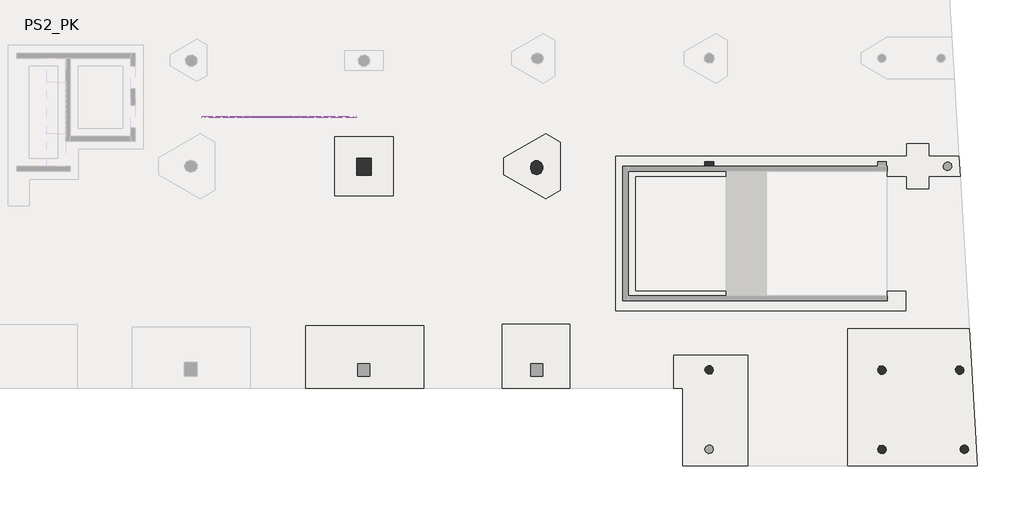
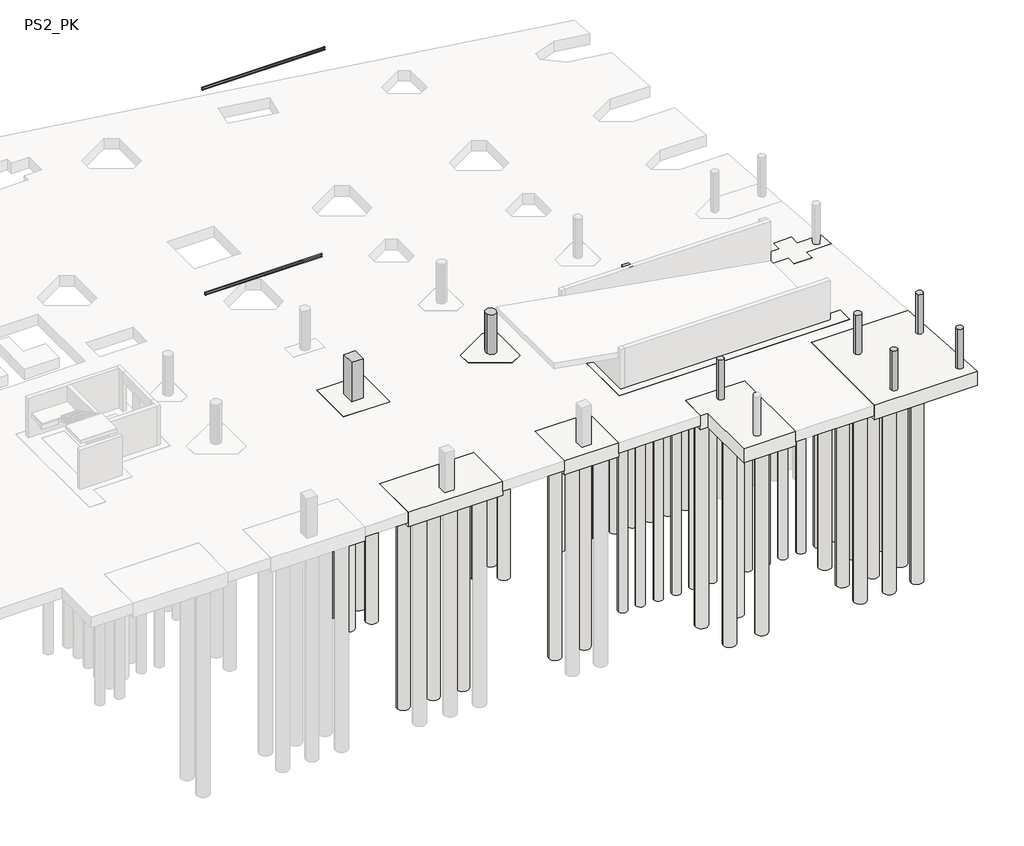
# One storey, part 4 of 10: 56 slabs, 8 columns, 2 beams.
"""IFC4 building model written with IfcOpenShell, lengths in millimetres."""

from ifc_helpers import new_model, si_unit, point, frame, frame_2d, origin, place, context, project, spatial, polyline, circle_curve, trimmed, segment, composite_curve, outline, extrude, faceted_brep, transform, mapped, element, save
from components import upn200x75_3e587e5f, upn200x75_de95b273, columna_seccomp_circ_columna_seccomp_circ_700x850_ca78fd77

model = new_model("IFC4")

# Units and contexts
model_context = context("Model", 3, world=origin())
ifc_project = project(units=[si_unit("LENGTHUNIT", "METRE", prefix="MILLI")], contexts=[model_context])

# Site, building, storey
site = spatial("IfcSite", under=ifc_project)
building = spatial("IfcBuilding", under=site)
storey = spatial("IfcBuildingStorey", under=building, Name="PS2_PK", Elevation=-1600.0)

# Beams
placement = place(None, origin())
upn200x75_shape = upn200x75_3e587e5f(model_context)
element("IfcBeam", 1, ObjectType="M_MC Shapes : UPN200x75", at=placement, inside=storey, context=model_context, shape_type="MappedRepresentation", body=[
    mapped(upn200x75_shape, transform((1566.4513115, -2010.7317513, 23660.0000368), x_axis=(0.9999999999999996, -3.175673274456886e-08, 0.0), y_axis=(3.175673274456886e-08, 0.9999999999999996, 0.0), z_axis=(0.0, 0.0, 1.0))),
])
upn200x75_2_shape = upn200x75_de95b273(model_context)
element("IfcBeam", 2, ObjectType="M_MC Shapes : UPN200x75", at=placement, inside=storey, context=model_context, shape_type="MappedRepresentation", body=[
    mapped(upn200x75_2_shape, transform((1566.4513123, -2010.7317513, 7760.0000231), x_axis=(0.9999999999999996, -3.175673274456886e-08, 0.0), y_axis=(3.175673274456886e-08, 0.9999999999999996, 0.0), z_axis=(0.0, 0.0, 1.0))),
])

# Columns
element("IfcColumn", 3, ObjectType="Hormigón-Redondo-Pilar : Pilo_Rodo-Formigo-500", at=placement, inside=storey, context=model_context, shape_type="SweptSolid", body=[
    extrude(outline(composite_curve([segment(trimmed(circle_curve(frame_2d((41261.1120515, -21285.1556839)), 250.0), [point((41055.2071105, -21426.9412801))], [point((41467.0169925, -21143.3700878))], False, "CARTESIAN"), True, "CONTINUOUS"), segment(trimmed(circle_curve(frame_2d((41261.1120515, -21285.1556839)), 250.0), [point((41467.0169925, -21143.3700878))], [point((41055.2071105, -21426.9412801))], False, "CARTESIAN"), True, "CONTINUOUS")], self_intersect=False)), frame((0.0, 0.0, -1600.0), z_axis=(0.0, 0.0, 1.0), x_axis=(1.0, 0.0, 0.0)), (0.0, 0.0, 1.0), 3050.0),
])
element("IfcColumn", 4, ObjectType="Hormigón-Redondo-Pilar : Pilo_Rodo-Formigo-500", at=placement, inside=storey, context=model_context, shape_type="SweptSolid", body=[
    extrude(outline(composite_curve([segment(trimmed(circle_curve(frame_2d((36484.7068935, -21285.1556118)), 250.0), [point((36278.8019525, -21426.9412079))], [point((36690.6118345, -21143.3700157))], False, "CARTESIAN"), True, "CONTINUOUS"), segment(trimmed(circle_curve(frame_2d((36484.7068935, -21285.1556118)), 250.0), [point((36690.6118345, -21143.3700157))], [point((36278.8019525, -21426.9412079))], False, "CARTESIAN"), True, "CONTINUOUS")], self_intersect=False)), frame((0.0, 0.0, -1600.0), z_axis=(0.0, 0.0, 1.0), x_axis=(1.0, 0.0, 0.0)), (0.0, 0.0, 1.0), 3050.0),
])
element("IfcColumn", 5, ObjectType="Hormigón-Redondo-Pilar : Pilo_Rodo-Formigo-500", at=placement, inside=storey, context=model_context, shape_type="SweptSolid", body=[
    extrude(outline(composite_curve([segment(trimmed(circle_curve(frame_2d((40986.7928926, -16685.0991437)), 250.0), [point((40780.8879516, -16826.8847398))], [point((41192.6978336, -16543.3135476))], False, "CARTESIAN"), True, "CONTINUOUS"), segment(trimmed(circle_curve(frame_2d((40986.7928926, -16685.0991437)), 250.0), [point((41192.6978336, -16543.3135476))], [point((40780.8879516, -16826.8847398))], False, "CARTESIAN"), True, "CONTINUOUS")], self_intersect=False)), frame((0.0, 0.0, -1600.0), z_axis=(0.0, 0.0, 1.0), x_axis=(1.0, 0.0, 0.0)), (0.0, 0.0, 1.0), 3050.0),
])
element("IfcColumn", 6, ObjectType="Hormigón-Redondo-Pilar : Pilo_Rodo-Formigo-500", at=placement, inside=storey, context=model_context, shape_type="SweptSolid", body=[
    extrude(outline(composite_curve([segment(trimmed(circle_curve(frame_2d((36484.7068935, -16685.0991433)), 250.0), [point((36278.8019525, -16826.8847394))], [point((36690.6118345, -16543.3135472))], False, "CARTESIAN"), True, "CONTINUOUS"), segment(trimmed(circle_curve(frame_2d((36484.7068935, -16685.0991433)), 250.0), [point((36690.6118345, -16543.3135472))], [point((36278.8019525, -16826.8847394))], False, "CARTESIAN"), True, "CONTINUOUS")], self_intersect=False)), frame((0.0, 0.0, -1600.0), z_axis=(0.0, 0.0, 1.0), x_axis=(1.0, 0.0, 0.0)), (0.0, 0.0, 1.0), 3050.0),
])
element("IfcColumn", 7, ObjectType="Hormigón-Redondo-Pilar : Pilo_Rodo-Formigo-500", at=placement, inside=storey, context=model_context, shape_type="SweptSolid", body=[
    extrude(outline(composite_curve([segment(trimmed(circle_curve(frame_2d((26484.7068935, -16685.0991435)), 250.0), [point((26278.8019525, -16826.8847396))], [point((26690.6118345, -16543.3135474))], False, "CARTESIAN"), True, "CONTINUOUS"), segment(trimmed(circle_curve(frame_2d((26484.7068935, -16685.0991435)), 250.0), [point((26690.6118345, -16543.3135474))], [point((26278.8019525, -16826.8847396))], False, "CARTESIAN"), True, "CONTINUOUS")], self_intersect=False)), frame((0.0, 0.0, -1600.0), z_axis=(0.0, 0.0, 1.0), x_axis=(1.0, 0.0, 0.0)), (0.0, 0.0, 1.0), 3050.0),
])
columna_seccomp_circ_columna_seccomp_circ_700x850_shape = columna_seccomp_circ_columna_seccomp_circ_700x850_ca78fd77(model_context)
element("IfcColumn", 8, ObjectType="Columna_SecComp_Circ : Columna_SecComp_Circ_700x850", at=placement, inside=storey, context=model_context, shape_type="MappedRepresentation", body=[
    mapped(columna_seccomp_circ_columna_seccomp_circ_700x850_shape, transform((16484.6814574, -4960.1423001, 0.0), x_axis=(0.0, 1.0, 0.0), y_axis=(-1.0, 0.0, 0.0), z_axis=(0.0, 0.0, 1.0))),
])
element("IfcColumn", 9, ObjectType="Concrete-Rectangular-Column : Pilar_Rectangular-Formigo-500x500", at=placement, inside=storey, context=model_context, shape_type="SweptSolid", body=[
    extrude(outline(polyline([(26734.7069054, -4635.0991439), (26734.7068816, -5135.0991439), (26234.7068816, -5135.0991202), (26234.7069054, -4635.0991202), (26734.7069054, -4635.0991439)])), frame((0.0, 0.0, -1600.0), z_axis=(0.0, 0.0, 1.0), x_axis=(1.0, 0.0, 0.0)), (0.0, 0.0, 1.0), 3050.0),
])
element("IfcColumn", 10, ObjectType="Concrete-Rectangular-Column : Pilar_Rectangular-Formigo-850x1000", at=placement, inside=storey, context=model_context, shape_type="SweptSolid", body=[
    extrude(outline(polyline([(6909.7080363, -4410.131442), (6909.7067713, -5410.131442), (6059.7067713, -5410.1303668), (6059.7080363, -4410.1303668), (6909.7080363, -4410.131442)])), frame((0.0, 0.0, -1600.0), z_axis=(0.0, 0.0, 1.0), x_axis=(1.0, 0.0, 0.0)), (0.0, 0.0, 1.0), 3050.0),
])

# Slabs
element("IfcSlab", 11, ObjectType="FunCap_Concreto_1100", at=placement, inside=storey, context=model_context, shape_type="Brep", body=[
    faceted_brep([(8184.676208, -6585.1328202, -2700.0), (4784.6762081, -6585.1285205, -2700.0), (4784.6805083, -3185.1285202, -2700.0), (8184.6805086, -3185.1328213, -2700.0), (8184.676208, -6585.1328202, -1600.0), (8184.6805086, -3185.1328213, -1600.0), (4784.6805083, -3185.1285202, -1600.0), (4784.6762081, -6585.1285205, -1600.0), (8184.676208, -6585.1328202, -2400.0), (4784.6762081, -6585.1285205, -2400.0), (4784.6805083, -3185.1285202, -2400.0), (8184.6805086, -3185.1328213, -2400.0)], [[[0, 1, 2, 3]], [[4, 5, 6, 7]], [[1, 0, 8, 4, 7, 9]], [[2, 1, 9, 7, 6, 10]], [[3, 2, 10, 6, 5, 11]], [[0, 3, 11, 5, 4, 8]]]),
])
element("IfcSlab", 12, ObjectType="FunCap_Concreto_1100", at=placement, inside=storey, context=model_context, shape_type="Brep", body=[
    faceted_brep([(14586.6387319, -5372.6384181, -2700.0), (14586.6399646, -4397.6384189, -2700.0), (17011.5128659, -2997.6414858, -2700.0), (17855.8870193, -3485.1425542, -2700.0), (17855.8834767, -6285.1425544, -2700.0), (17011.5080914, -6772.6414857, -2700.0), (14586.6387319, -5372.6384181, -1600.0), (17011.5080914, -6772.6414857, -1600.0), (17855.8834767, -6285.1425544, -1600.0), (17855.8870193, -3485.1425542, -1600.0), (17011.5128659, -2997.6414858, -1600.0), (14586.6399646, -4397.6384189, -1600.0), (14586.6387319, -5372.6384181, -2400.0), (14586.6399646, -4397.6384189, -2400.0), (17011.5128659, -2997.6414858, -2400.0), (17855.8870193, -3485.1425542, -2400.0), (17855.8834767, -6285.1425544, -2400.0), (17011.5080914, -6772.6414857, -2400.0)], [[[0, 1, 2, 3, 4, 5]], [[6, 7, 8, 9, 10, 11]], [[1, 0, 12, 6, 11, 13]], [[2, 1, 13, 11, 10, 14]], [[3, 2, 14, 10, 9, 15]], [[4, 3, 15, 9, 8, 16]], [[5, 4, 16, 8, 7, 17]], [[0, 5, 17, 7, 6, 12]]]),
])
element("IfcSlab", 13, ObjectType="FunCap_Concreto_1100", at=placement, inside=storey, context=model_context, shape_type="Brep", body=[
    faceted_brep([(39234.6775992, -5485.1695962, -2700.0), (39234.6766775, -6213.1460017, -2700.0), (37884.6766788, -6213.1442933, -2700.0), (37884.6775991, -5485.1678883, -2700.0), (22234.6776006, -5485.1480926, -2700.0), (22234.6692516, -12085.1480932, -2700.0), (37884.669251, -12085.1678888, -2700.0), (37884.6677328, -13285.1678881, -2700.0), (21034.6677332, -13285.1465747, -2700.0), (21034.6791178, -4285.1465742, -2700.0), (37884.6791174, -4285.1678881, -2700.0), (37884.6800304, -3563.1442939, -2700.0), (39234.6800305, -3563.1460018, -2700.0), (39234.6791175, -4285.1695956, -2700.0), (40949.1868096, -4285.1717655, -2700.0), (41020.7474881, -5485.1718545, -2700.0), (39234.6775992, -5485.1695962, -1600.0), (41020.7474881, -5485.1718545, -1600.0), (40949.1868096, -4285.1717655, -1600.0), (39234.6791175, -4285.1695956, -1600.0), (39234.6800305, -3563.1460018, -1600.0), (37884.6800304, -3563.1442939, -1600.0), (37884.6791174, -4285.1678881, -1600.0), (21034.6791178, -4285.1465742, -1600.0), (21034.6677332, -13285.1465747, -1600.0), (37884.6677328, -13285.1678881, -1600.0), (37884.669251, -12085.1678888, -1600.0), (36784.7068971, -12085.1664975, -1600.0), (34431.6189422, -12085.1635211, -1600.0), (22234.6692516, -12085.1480932, -1600.0), (22234.6776006, -5485.1480926, -1600.0), (34431.6189422, -5485.1635205, -1600.0), (36784.7068971, -5485.1664969, -1600.0), (37884.6775991, -5485.1678883, -1600.0), (37884.6766788, -6213.1442933, -1600.0), (39234.6766775, -6213.1460017, -1600.0), (39234.6775992, -5485.1695962, -2400.0), (39234.6766775, -6213.1460017, -2400.0), (37884.6766788, -6213.1442933, -2400.0), (37884.6775991, -5485.1678883, -2400.0), (22234.6776006, -5485.1480926, -2400.0), (22234.6692516, -12085.1480932, -2400.0), (37884.669251, -12085.1678888, -2400.0), (37884.6677328, -13285.1678881, -2400.0), (21034.6677332, -13285.1465747, -2400.0), (21034.6791178, -4285.1465742, -2400.0), (37884.6791174, -4285.1678881, -2400.0), (37884.6800304, -3563.1442939, -2400.0), (39234.6800305, -3563.1460018, -2400.0), (39234.6791175, -4285.1695956, -2400.0)], [[[0, 1, 2, 3, 4, 5, 6, 7, 8, 9, 10, 11, 12, 13, 14, 15]], [[16, 17, 18, 19, 20, 21, 22, 23, 24, 25, 26, 27, 28, 29, 30, 31, 32, 33, 34, 35]], [[1, 0, 36, 16, 35, 37]], [[2, 1, 37, 35, 34, 38]], [[3, 2, 38, 34, 33, 39]], [[4, 3, 39, 33, 32, 31, 30, 40]], [[5, 4, 40, 30, 29, 41]], [[6, 5, 41, 29, 28, 27, 26, 42]], [[7, 6, 42, 26, 25, 43]], [[8, 7, 43, 25, 24, 44]], [[9, 8, 44, 24, 23, 45]], [[10, 9, 45, 23, 22, 46]], [[11, 10, 46, 22, 21, 47]], [[12, 11, 47, 21, 20, 48]], [[13, 12, 48, 20, 19, 49]], [[14, 13, 49, 19, 18]], [[15, 14, 18, 17]], [[0, 15, 17, 16, 36]]]),
])
element("IfcSlab", 14, ObjectType="FunCap_Concreto_1100", at=placement, inside=storey, context=model_context, shape_type="Brep", body=[
    faceted_brep([(34485.7399193, -14256.7420885, -2700.0), (41543.8309131, -14256.7510167, -2700.0), (42020.1552762, -22244.2280778, -2700.0), (34485.729816, -22244.2280778, -2700.0), (34485.7399193, -14256.7420885, -1600.0), (34485.729816, -22244.2280778, -1600.0), (42020.1552762, -22244.2280778, -1600.0), (41543.8309131, -14256.7510167, -1600.0), (34485.7399193, -14256.7420885, -2400.0)], [[[0, 1, 2, 3]], [[4, 5, 6, 7]], [[1, 0, 8, 4, 7]], [[2, 1, 7, 6]], [[3, 2, 6, 5]], [[0, 3, 5, 4, 8]]]),
])
element("IfcSlab", 15, ObjectType="FunCap_Concreto_1100", at=placement, inside=storey, context=model_context, shape_type="Brep", body=[
    faceted_brep([(24944.3856893, -17733.5735079, -2700.0), (24409.6620966, -17733.5728017, -2700.0), (24409.6645394, -15810.1562743, -2700.0), (28744.3881261, -15810.1618334, -2700.0), (28744.3798642, -22244.2280778, -2700.0), (24944.3797383, -22244.2280778, -2700.0), (24944.3856893, -17733.5735079, -1600.0), (24944.3797383, -22244.2280778, -1600.0), (28744.3798642, -22244.2280778, -1600.0), (28744.3881261, -15810.1618334, -1600.0), (24409.6645394, -15810.1562743, -1600.0), (24409.6620966, -17733.5728017, -1600.0), (24409.6645394, -15810.1562743, -2400.0), (28744.3881261, -15810.1618334, -2400.0)], [[[0, 1, 2, 3, 4, 5]], [[6, 7, 8, 9, 10, 11]], [[1, 0, 6, 11]], [[2, 1, 11, 10, 12]], [[3, 2, 12, 10, 9, 13]], [[4, 3, 13, 9, 8]], [[5, 4, 8, 7]], [[0, 5, 7, 6]]]),
])
element("IfcSlab", 16, ObjectType="FunCap_Concreto_1100", at=placement, inside=storey, context=model_context, shape_type="Brep", body=[
    faceted_brep([(18431.1823523, -14006.1082963, -2700.0), (18431.1823523, -17733.5286548, -2700.0), (14475.6888375, -17733.5286548, -2700.0), (14475.6888375, -14006.1082963, -2700.0), (18431.1823523, -14006.1082963, -1600.0), (14475.6888375, -14006.1082963, -1600.0), (14475.6888375, -17733.2608686, -1600.0), (14475.6888375, -17733.5286548, -1600.0), (18431.1823523, -17733.5286548, -1600.0), (18431.1823523, -17733.3579028, -1600.0), (18431.1823523, -14006.1082963, -2400.0), (14475.6888375, -14006.1082963, -2400.0)], [[[0, 1, 2, 3]], [[4, 5, 6, 7, 8, 9]], [[1, 0, 10, 4, 9, 8]], [[2, 1, 8, 7]], [[3, 2, 7, 6, 5, 11]], [[0, 3, 11, 5, 4, 10]]]),
])
element("IfcSlab", 17, ObjectType="FunCap_Concreto_1100", at=placement, inside=storey, context=model_context, shape_type="Brep", body=[
    faceted_brep([(9972.6673336, -14101.0842931, -2700.0), (9972.6673336, -17733.5286548, -2700.0), (3072.6719289, -17733.5286548, -2700.0), (3072.6719289, -14101.0842931, -2700.0), (9972.6673336, -14101.0842931, -1600.0), (3072.6719289, -14101.0842931, -1600.0), (3072.6719289, -17732.9811353, -1600.0), (3072.6719289, -17733.5286548, -1600.0), (9972.6673336, -17733.5286548, -1600.0), (9972.6673336, -17733.1504027, -1600.0), (9972.6673336, -14101.0842931, -2400.0), (3072.6719289, -14101.0842931, -2400.0)], [[[0, 1, 2, 3]], [[4, 5, 6, 7, 8, 9]], [[1, 0, 10, 4, 9, 8]], [[2, 1, 8, 7]], [[3, 2, 7, 6, 5, 11]], [[0, 3, 11, 5, 4, 10]]]),
])
element("IfcSlab", 18, ObjectType="Fun_Pilote_Redondo : Fun_Pilote_Redondo_Conc_650x16000", at=placement, inside=storey, context=model_context, shape_type="SweptSolid", body=[
    extrude(outline(composite_curve([segment(trimmed(circle_curve(frame_2d((37234.6684909, -12685.1670739)), 325.0), [point((36909.6684909, -12685.1670739))], [point((37559.6684909, -12685.1670739))], False, "CARTESIAN"), True, "CONTINUOUS"), segment(trimmed(circle_curve(frame_2d((37234.6684909, -12685.1670739)), 325.0), [point((37559.6684909, -12685.1670739))], [point((36909.6684909, -12685.1670739))], False, "CARTESIAN"), True, "CONTINUOUS")], self_intersect=False)), frame((0.0, 0.0, -18700.0), z_axis=(0.0, 0.0, 1.0), x_axis=(1.0, 0.0, 0.0)), (0.0, 0.0, 1.0), 16000.0),
])
element("IfcSlab", 19, ObjectType="Fun_Pilote_Redondo : Fun_Pilote_Redondo_Conc_650x16000", at=placement, inside=storey, context=model_context, shape_type="SweptSolid", body=[
    extrude(outline(composite_curve([segment(trimmed(circle_curve(frame_2d((35934.6684916, -12685.1654294)), 325.0), [point((35609.6684916, -12685.1654294))], [point((36259.6684916, -12685.1654294))], False, "CARTESIAN"), True, "CONTINUOUS"), segment(trimmed(circle_curve(frame_2d((35934.6684916, -12685.1654294)), 325.0), [point((36259.6684916, -12685.1654294))], [point((35609.6684916, -12685.1654294))], False, "CARTESIAN"), True, "CONTINUOUS")], self_intersect=False)), frame((0.0, 0.0, -18700.0), z_axis=(0.0, 0.0, 1.0), x_axis=(1.0, 0.0, 0.0)), (0.0, 0.0, 1.0), 16000.0),
])
element("IfcSlab", 20, ObjectType="Fun_Pilote_Redondo : Fun_Pilote_Redondo_Conc_650x16000", at=placement, inside=storey, context=model_context, shape_type="SweptSolid", body=[
    extrude(outline(composite_curve([segment(trimmed(circle_curve(frame_2d((34634.6684913, -12685.1637849)), 325.0), [point((34309.6684913, -12685.1637849))], [point((34959.6684913, -12685.1637849))], False, "CARTESIAN"), True, "CONTINUOUS"), segment(trimmed(circle_curve(frame_2d((34634.6684913, -12685.1637849)), 325.0), [point((34959.6684913, -12685.1637849))], [point((34309.6684913, -12685.1637849))], False, "CARTESIAN"), True, "CONTINUOUS")], self_intersect=False)), frame((0.0, 0.0, -18700.0), z_axis=(0.0, 0.0, 1.0), x_axis=(1.0, 0.0, 0.0)), (0.0, 0.0, 1.0), 16000.0),
])
element("IfcSlab", 21, ObjectType="Fun_Pilote_Redondo : Fun_Pilote_Redondo_Conc_650x16000", at=placement, inside=storey, context=model_context, shape_type="SweptSolid", body=[
    extrude(outline(composite_curve([segment(trimmed(circle_curve(frame_2d((33334.6684915, -12685.1621404)), 325.0), [point((33009.6684915, -12685.1621404))], [point((33659.6684915, -12685.1621404))], False, "CARTESIAN"), True, "CONTINUOUS"), segment(trimmed(circle_curve(frame_2d((33334.6684915, -12685.1621404)), 325.0), [point((33659.6684915, -12685.1621404))], [point((33009.6684915, -12685.1621404))], False, "CARTESIAN"), True, "CONTINUOUS")], self_intersect=False)), frame((0.0, 0.0, -18700.0), z_axis=(0.0, 0.0, 1.0), x_axis=(1.0, 0.0, 0.0)), (0.0, 0.0, 1.0), 16000.0),
])
element("IfcSlab", 22, ObjectType="Fun_Pilote_Redondo : Fun_Pilote_Redondo_Conc_650x16000", at=placement, inside=storey, context=model_context, shape_type="SweptSolid", body=[
    extrude(outline(composite_curve([segment(trimmed(circle_curve(frame_2d((32034.6684917, -12685.1604959)), 325.0), [point((31709.6684917, -12685.1604959))], [point((32359.6684917, -12685.1604959))], False, "CARTESIAN"), True, "CONTINUOUS"), segment(trimmed(circle_curve(frame_2d((32034.6684917, -12685.1604959)), 325.0), [point((32359.6684917, -12685.1604959))], [point((31709.6684917, -12685.1604959))], False, "CARTESIAN"), True, "CONTINUOUS")], self_intersect=False)), frame((0.0, 0.0, -18700.0), z_axis=(0.0, 0.0, 1.0), x_axis=(1.0, 0.0, 0.0)), (0.0, 0.0, 1.0), 16000.0),
])
element("IfcSlab", 23, ObjectType="Fun_Pilote_Redondo : Fun_Pilote_Redondo_Conc_650x16000", at=placement, inside=storey, context=model_context, shape_type="SweptSolid", body=[
    extrude(outline(composite_curve([segment(trimmed(circle_curve(frame_2d((30734.6684909, -12685.1588505)), 325.0), [point((30409.6684909, -12685.1588505))], [point((31059.6684909, -12685.1588505))], False, "CARTESIAN"), True, "CONTINUOUS"), segment(trimmed(circle_curve(frame_2d((30734.6684909, -12685.1588505)), 325.0), [point((31059.6684909, -12685.1588505))], [point((30409.6684909, -12685.1588505))], False, "CARTESIAN"), True, "CONTINUOUS")], self_intersect=False)), frame((0.0, 0.0, -18700.0), z_axis=(0.0, 0.0, 1.0), x_axis=(1.0, 0.0, 0.0)), (0.0, 0.0, 1.0), 16000.0),
])
element("IfcSlab", 24, ObjectType="Fun_Pilote_Redondo : Fun_Pilote_Redondo_Conc_650x16000", at=placement, inside=storey, context=model_context, shape_type="SweptSolid", body=[
    extrude(outline(composite_curve([segment(trimmed(circle_curve(frame_2d((29434.6684911, -12685.1572065)), 325.0), [point((29109.6684911, -12685.1572065))], [point((29759.6684911, -12685.1572065))], False, "CARTESIAN"), True, "CONTINUOUS"), segment(trimmed(circle_curve(frame_2d((29434.6684911, -12685.1572065)), 325.0), [point((29759.6684911, -12685.1572065))], [point((29109.6684911, -12685.1572065))], False, "CARTESIAN"), True, "CONTINUOUS")], self_intersect=False)), frame((0.0, 0.0, -18700.0), z_axis=(0.0, 0.0, 1.0), x_axis=(1.0, 0.0, 0.0)), (0.0, 0.0, 1.0), 16000.0),
])
element("IfcSlab", 25, ObjectType="Fun_Pilote_Redondo : Fun_Pilote_Redondo_Conc_650x16000", at=placement, inside=storey, context=model_context, shape_type="SweptSolid", body=[
    extrude(outline(composite_curve([segment(trimmed(circle_curve(frame_2d((28134.6684913, -12685.155562)), 325.0), [point((27809.6684913, -12685.155562))], [point((28459.6684913, -12685.155562))], False, "CARTESIAN"), True, "CONTINUOUS"), segment(trimmed(circle_curve(frame_2d((28134.6684913, -12685.155562)), 325.0), [point((28459.6684913, -12685.155562))], [point((27809.6684913, -12685.155562))], False, "CARTESIAN"), True, "CONTINUOUS")], self_intersect=False)), frame((0.0, 0.0, -18700.0), z_axis=(0.0, 0.0, 1.0), x_axis=(1.0, 0.0, 0.0)), (0.0, 0.0, 1.0), 16000.0),
])
element("IfcSlab", 26, ObjectType="Fun_Pilote_Redondo : Fun_Pilote_Redondo_Conc_650x16000", at=placement, inside=storey, context=model_context, shape_type="SweptSolid", body=[
    extrude(outline(composite_curve([segment(trimmed(circle_curve(frame_2d((26834.668491, -12685.1539175)), 325.0), [point((26509.668491, -12685.1539175))], [point((27159.668491, -12685.1539175))], False, "CARTESIAN"), True, "CONTINUOUS"), segment(trimmed(circle_curve(frame_2d((26834.668491, -12685.1539175)), 325.0), [point((27159.668491, -12685.1539175))], [point((26509.668491, -12685.1539175))], False, "CARTESIAN"), True, "CONTINUOUS")], self_intersect=False)), frame((0.0, 0.0, -18700.0), z_axis=(0.0, 0.0, 1.0), x_axis=(1.0, 0.0, 0.0)), (0.0, 0.0, 1.0), 16000.0),
])
element("IfcSlab", 27, ObjectType="Fun_Pilote_Redondo : Fun_Pilote_Redondo_Conc_650x16000", at=placement, inside=storey, context=model_context, shape_type="SweptSolid", body=[
    extrude(outline(composite_curve([segment(trimmed(circle_curve(frame_2d((25534.6684912, -12685.152273)), 325.0), [point((25209.6684912, -12685.152273))], [point((25859.6684912, -12685.152273))], False, "CARTESIAN"), True, "CONTINUOUS"), segment(trimmed(circle_curve(frame_2d((25534.6684912, -12685.152273)), 325.0), [point((25859.6684912, -12685.152273))], [point((25209.6684912, -12685.152273))], False, "CARTESIAN"), True, "CONTINUOUS")], self_intersect=False)), frame((0.0, 0.0, -18700.0), z_axis=(0.0, 0.0, 1.0), x_axis=(1.0, 0.0, 0.0)), (0.0, 0.0, 1.0), 16000.0),
])
element("IfcSlab", 28, ObjectType="Fun_Pilote_Redondo : Fun_Pilote_Redondo_Conc_650x16000", at=placement, inside=storey, context=model_context, shape_type="SweptSolid", body=[
    extrude(outline(composite_curve([segment(trimmed(circle_curve(frame_2d((24234.6684919, -12685.1506285)), 325.0), [point((23909.6684919, -12685.1506285))], [point((24559.6684919, -12685.1506285))], False, "CARTESIAN"), True, "CONTINUOUS"), segment(trimmed(circle_curve(frame_2d((24234.6684919, -12685.1506285)), 325.0), [point((24559.6684919, -12685.1506285))], [point((23909.6684919, -12685.1506285))], False, "CARTESIAN"), True, "CONTINUOUS")], self_intersect=False)), frame((0.0, 0.0, -18700.0), z_axis=(0.0, 0.0, 1.0), x_axis=(1.0, 0.0, 0.0)), (0.0, 0.0, 1.0), 16000.0),
])
element("IfcSlab", 29, ObjectType="Fun_Pilote_Redondo : Fun_Pilote_Redondo_Conc_650x16000", at=placement, inside=storey, context=model_context, shape_type="SweptSolid", body=[
    extrude(outline(composite_curve([segment(trimmed(circle_curve(frame_2d((22934.6684911, -12685.148983)), 325.0), [point((22609.6684911, -12685.148983))], [point((23259.6684911, -12685.148983))], False, "CARTESIAN"), True, "CONTINUOUS"), segment(trimmed(circle_curve(frame_2d((22934.6684911, -12685.148983)), 325.0), [point((23259.6684911, -12685.148983))], [point((22609.6684911, -12685.148983))], False, "CARTESIAN"), True, "CONTINUOUS")], self_intersect=False)), frame((0.0, 0.0, -18700.0), z_axis=(0.0, 0.0, 1.0), x_axis=(1.0, 0.0, 0.0)), (0.0, 0.0, 1.0), 16000.0),
])
element("IfcSlab", 30, ObjectType="Fun_Pilote_Redondo : Fun_Pilote_Redondo_Conc_650x16000", at=placement, inside=storey, context=model_context, shape_type="SweptSolid", body=[
    extrude(outline(composite_curve([segment(trimmed(circle_curve(frame_2d((21634.6684913, -12685.1473385)), 325.0), [point((21309.6684913, -12685.1473385))], [point((21959.6684913, -12685.1473385))], False, "CARTESIAN"), True, "CONTINUOUS"), segment(trimmed(circle_curve(frame_2d((21634.6684913, -12685.1473385)), 325.0), [point((21959.6684913, -12685.1473385))], [point((21309.6684913, -12685.1473385))], False, "CARTESIAN"), True, "CONTINUOUS")], self_intersect=False)), frame((0.0, 0.0, -18700.0), z_axis=(0.0, 0.0, 1.0), x_axis=(1.0, 0.0, 0.0)), (0.0, 0.0, 1.0), 16000.0),
])
element("IfcSlab", 31, ObjectType="Fun_Pilote_Redondo : Fun_Pilote_Redondo_Conc_650x16000", at=placement, inside=storey, context=model_context, shape_type="SweptSolid", body=[
    extrude(outline(composite_curve([segment(trimmed(circle_curve(frame_2d((21634.6717808, -10085.1473389)), 325.0), [point((21309.6717808, -10085.1473389))], [point((21959.6717808, -10085.1473389))], False, "CARTESIAN"), True, "CONTINUOUS"), segment(trimmed(circle_curve(frame_2d((21634.6717808, -10085.1473389)), 325.0), [point((21959.6717808, -10085.1473389))], [point((21309.6717808, -10085.1473389))], False, "CARTESIAN"), True, "CONTINUOUS")], self_intersect=False)), frame((0.0, 0.0, -18700.0), z_axis=(0.0, 0.0, 1.0), x_axis=(1.0, 0.0, 0.0)), (0.0, 0.0, 1.0), 16000.0),
])
element("IfcSlab", 32, ObjectType="Fun_Pilote_Redondo : Fun_Pilote_Redondo_Conc_650x16000", at=placement, inside=storey, context=model_context, shape_type="SweptSolid", body=[
    extrude(outline(composite_curve([segment(trimmed(circle_curve(frame_2d((21634.6750693, -7485.1473388)), 325.0), [point((21309.6750693, -7485.1473388))], [point((21959.6750693, -7485.1473388))], False, "CARTESIAN"), True, "CONTINUOUS"), segment(trimmed(circle_curve(frame_2d((21634.6750693, -7485.1473388)), 325.0), [point((21959.6750693, -7485.1473388))], [point((21309.6750693, -7485.1473388))], False, "CARTESIAN"), True, "CONTINUOUS")], self_intersect=False)), frame((0.0, 0.0, -18700.0), z_axis=(0.0, 0.0, 1.0), x_axis=(1.0, 0.0, 0.0)), (0.0, 0.0, 1.0), 16000.0),
])
element("IfcSlab", 33, ObjectType="Fun_Pilote_Redondo : Fun_Pilote_Redondo_Conc_650x16000", at=placement, inside=storey, context=model_context, shape_type="SweptSolid", body=[
    extrude(outline(composite_curve([segment(trimmed(circle_curve(frame_2d((21634.6783588, -4885.1473387)), 325.0), [point((21309.6783588, -4885.1473387))], [point((21959.6783588, -4885.1473387))], False, "CARTESIAN"), True, "CONTINUOUS"), segment(trimmed(circle_curve(frame_2d((21634.6783588, -4885.1473387)), 325.0), [point((21959.6783588, -4885.1473387))], [point((21309.6783588, -4885.1473387))], False, "CARTESIAN"), True, "CONTINUOUS")], self_intersect=False)), frame((0.0, 0.0, -18700.0), z_axis=(0.0, 0.0, 1.0), x_axis=(1.0, 0.0, 0.0)), (0.0, 0.0, 1.0), 16000.0),
])
element("IfcSlab", 34, ObjectType="Fun_Pilote_Redondo : Fun_Pilote_Redondo_Conc_650x16000", at=placement, inside=storey, context=model_context, shape_type="SweptSolid", body=[
    extrude(outline(composite_curve([segment(trimmed(circle_curve(frame_2d((22934.6783591, -4885.1489837)), 325.0), [point((22609.6783591, -4885.1489837))], [point((23259.6783591, -4885.1489837))], False, "CARTESIAN"), True, "CONTINUOUS"), segment(trimmed(circle_curve(frame_2d((22934.6783591, -4885.1489837)), 325.0), [point((23259.6783591, -4885.1489837))], [point((22609.6783591, -4885.1489837))], False, "CARTESIAN"), True, "CONTINUOUS")], self_intersect=False)), frame((0.0, 0.0, -18700.0), z_axis=(0.0, 0.0, 1.0), x_axis=(1.0, 0.0, 0.0)), (0.0, 0.0, 1.0), 16000.0),
])
element("IfcSlab", 35, ObjectType="Fun_Pilote_Redondo : Fun_Pilote_Redondo_Conc_650x16000", at=placement, inside=storey, context=model_context, shape_type="SweptSolid", body=[
    extrude(outline(composite_curve([segment(trimmed(circle_curve(frame_2d((24234.6783589, -4885.1506282)), 325.0), [point((23909.6783589, -4885.1506282))], [point((24559.6783589, -4885.1506282))], False, "CARTESIAN"), True, "CONTINUOUS"), segment(trimmed(circle_curve(frame_2d((24234.6783589, -4885.1506282)), 325.0), [point((24559.6783589, -4885.1506282))], [point((23909.6783589, -4885.1506282))], False, "CARTESIAN"), True, "CONTINUOUS")], self_intersect=False)), frame((0.0, 0.0, -18700.0), z_axis=(0.0, 0.0, 1.0), x_axis=(1.0, 0.0, 0.0)), (0.0, 0.0, 1.0), 16000.0),
])
element("IfcSlab", 36, ObjectType="Fun_Pilote_Redondo : Fun_Pilote_Redondo_Conc_650x16000", at=placement, inside=storey, context=model_context, shape_type="SweptSolid", body=[
    extrude(outline(composite_curve([segment(trimmed(circle_curve(frame_2d((25534.6783587, -4885.1522727)), 325.0), [point((25209.6783587, -4885.1522727))], [point((25859.6783587, -4885.1522727))], False, "CARTESIAN"), True, "CONTINUOUS"), segment(trimmed(circle_curve(frame_2d((25534.6783587, -4885.1522727)), 325.0), [point((25859.6783587, -4885.1522727))], [point((25209.6783587, -4885.1522727))], False, "CARTESIAN"), True, "CONTINUOUS")], self_intersect=False)), frame((0.0, 0.0, -18700.0), z_axis=(0.0, 0.0, 1.0), x_axis=(1.0, 0.0, 0.0)), (0.0, 0.0, 1.0), 16000.0),
])
element("IfcSlab", 37, ObjectType="Fun_Pilote_Redondo : Fun_Pilote_Redondo_Conc_650x16000", at=placement, inside=storey, context=model_context, shape_type="SweptSolid", body=[
    extrude(outline(composite_curve([segment(trimmed(circle_curve(frame_2d((26834.6783585, -4885.1539167)), 325.0), [point((26509.6783585, -4885.1539167))], [point((27159.6783585, -4885.1539167))], False, "CARTESIAN"), True, "CONTINUOUS"), segment(trimmed(circle_curve(frame_2d((26834.6783585, -4885.1539167)), 325.0), [point((27159.6783585, -4885.1539167))], [point((26509.6783585, -4885.1539167))], False, "CARTESIAN"), True, "CONTINUOUS")], self_intersect=False)), frame((0.0, 0.0, -18700.0), z_axis=(0.0, 0.0, 1.0), x_axis=(1.0, 0.0, 0.0)), (0.0, 0.0, 1.0), 16000.0),
])
element("IfcSlab", 38, ObjectType="Fun_Pilote_Redondo : Fun_Pilote_Redondo_Conc_650x16000", at=placement, inside=storey, context=model_context, shape_type="SweptSolid", body=[
    extrude(outline(composite_curve([segment(trimmed(circle_curve(frame_2d((28134.6783588, -4885.1555612)), 325.0), [point((27809.6783588, -4885.1555612))], [point((28459.6783588, -4885.1555612))], False, "CARTESIAN"), True, "CONTINUOUS"), segment(trimmed(circle_curve(frame_2d((28134.6783588, -4885.1555612)), 325.0), [point((28459.6783588, -4885.1555612))], [point((27809.6783588, -4885.1555612))], False, "CARTESIAN"), True, "CONTINUOUS")], self_intersect=False)), frame((0.0, 0.0, -18700.0), z_axis=(0.0, 0.0, 1.0), x_axis=(1.0, 0.0, 0.0)), (0.0, 0.0, 1.0), 16000.0),
])
element("IfcSlab", 39, ObjectType="Fun_Pilote_Redondo : Fun_Pilote_Redondo_Conc_650x16000", at=placement, inside=storey, context=model_context, shape_type="SweptSolid", body=[
    extrude(outline(composite_curve([segment(trimmed(circle_curve(frame_2d((29434.6783586, -4885.1572057)), 325.0), [point((29109.6783586, -4885.1572057))], [point((29759.6783586, -4885.1572057))], False, "CARTESIAN"), True, "CONTINUOUS"), segment(trimmed(circle_curve(frame_2d((29434.6783586, -4885.1572057)), 325.0), [point((29759.6783586, -4885.1572057))], [point((29109.6783586, -4885.1572057))], False, "CARTESIAN"), True, "CONTINUOUS")], self_intersect=False)), frame((0.0, 0.0, -18700.0), z_axis=(0.0, 0.0, 1.0), x_axis=(1.0, 0.0, 0.0)), (0.0, 0.0, 1.0), 16000.0),
])
element("IfcSlab", 40, ObjectType="Fun_Pilote_Redondo : Fun_Pilote_Redondo_Conc_650x16000", at=placement, inside=storey, context=model_context, shape_type="SweptSolid", body=[
    extrude(outline(composite_curve([segment(trimmed(circle_curve(frame_2d((30734.6783589, -4885.1588512)), 325.0), [point((30409.6783589, -4885.1588512))], [point((31059.6783589, -4885.1588512))], False, "CARTESIAN"), True, "CONTINUOUS"), segment(trimmed(circle_curve(frame_2d((30734.6783589, -4885.1588512)), 325.0), [point((31059.6783589, -4885.1588512))], [point((30409.6783589, -4885.1588512))], False, "CARTESIAN"), True, "CONTINUOUS")], self_intersect=False)), frame((0.0, 0.0, -18700.0), z_axis=(0.0, 0.0, 1.0), x_axis=(1.0, 0.0, 0.0)), (0.0, 0.0, 1.0), 16000.0),
])
element("IfcSlab", 41, ObjectType="Fun_Pilote_Redondo : Fun_Pilote_Redondo_Conc_650x16000", at=placement, inside=storey, context=model_context, shape_type="SweptSolid", body=[
    extrude(outline(composite_curve([segment(trimmed(circle_curve(frame_2d((32034.6783592, -4885.1604957)), 325.0), [point((31709.6783592, -4885.1604957))], [point((32359.6783592, -4885.1604957))], False, "CARTESIAN"), True, "CONTINUOUS"), segment(trimmed(circle_curve(frame_2d((32034.6783592, -4885.1604957)), 325.0), [point((32359.6783592, -4885.1604957))], [point((31709.6783592, -4885.1604957))], False, "CARTESIAN"), True, "CONTINUOUS")], self_intersect=False)), frame((0.0, 0.0, -18700.0), z_axis=(0.0, 0.0, 1.0), x_axis=(1.0, 0.0, 0.0)), (0.0, 0.0, 1.0), 16000.0),
])
element("IfcSlab", 42, ObjectType="Fun_Pilote_Redondo : Fun_Pilote_Redondo_Conc_850x16000", at=placement, inside=storey, context=model_context, shape_type="SweptSolid", body=[
    extrude(outline(composite_curve([segment(trimmed(circle_curve(frame_2d((5634.6794334, -4035.1295975)), 425.0), [point((5209.6794334, -4035.1295975))], [point((6059.6794334, -4035.1295975))], False, "CARTESIAN"), True, "CONTINUOUS"), segment(trimmed(circle_curve(frame_2d((5634.6794334, -4035.1295975)), 425.0), [point((6059.6794334, -4035.1295975))], [point((5209.6794334, -4035.1295975))], False, "CARTESIAN"), True, "CONTINUOUS")], self_intersect=False)), frame((0.0, 0.0, -18700.0), z_axis=(0.0, 0.0, 1.0), x_axis=(1.0, 0.0, 0.0)), (0.0, 0.0, 1.0), 16000.0),
])
element("IfcSlab", 43, ObjectType="Fun_Pilote_Redondo : Fun_Pilote_Redondo_Conc_850x16000", at=placement, inside=storey, context=model_context, shape_type="SweptSolid", body=[
    extrude(outline(composite_curve([segment(trimmed(circle_curve(frame_2d((5634.6772835, -5735.1295977)), 425.0), [point((5209.6772835, -5735.1295977))], [point((6059.6772835, -5735.1295977))], False, "CARTESIAN"), True, "CONTINUOUS"), segment(trimmed(circle_curve(frame_2d((5634.6772835, -5735.1295977)), 425.0), [point((6059.6772835, -5735.1295977))], [point((5209.6772835, -5735.1295977))], False, "CARTESIAN"), True, "CONTINUOUS")], self_intersect=False)), frame((0.0, 0.0, -18700.0), z_axis=(0.0, 0.0, 1.0), x_axis=(1.0, 0.0, 0.0)), (0.0, 0.0, 1.0), 16000.0),
])
element("IfcSlab", 44, ObjectType="Fun_Pilote_Redondo : Fun_Pilote_Redondo_Conc_850x16000", at=placement, inside=storey, context=model_context, shape_type="SweptSolid", body=[
    extrude(outline(composite_curve([segment(trimmed(circle_curve(frame_2d((7334.677283, -5735.131748)), 425.0), [point((6909.677283, -5735.131748))], [point((7759.677283, -5735.131748))], False, "CARTESIAN"), True, "CONTINUOUS"), segment(trimmed(circle_curve(frame_2d((7334.677283, -5735.131748)), 425.0), [point((7759.677283, -5735.131748))], [point((6909.677283, -5735.131748))], False, "CARTESIAN"), True, "CONTINUOUS")], self_intersect=False)), frame((0.0, 0.0, -18700.0), z_axis=(0.0, 0.0, 1.0), x_axis=(1.0, 0.0, 0.0)), (0.0, 0.0, 1.0), 16000.0),
])
element("IfcSlab", 45, ObjectType="Fun_Pilote_Redondo : Fun_Pilote_Redondo_Conc_850x16000", at=placement, inside=storey, context=model_context, shape_type="SweptSolid", body=[
    extrude(outline(composite_curve([segment(trimmed(circle_curve(frame_2d((7334.6794341, -4035.1317483)), 425.0), [point((6909.6794341, -4035.1317483))], [point((7759.6794341, -4035.1317483))], False, "CARTESIAN"), True, "CONTINUOUS"), segment(trimmed(circle_curve(frame_2d((7334.6794341, -4035.1317483)), 425.0), [point((7759.6794341, -4035.1317483))], [point((6909.6794341, -4035.1317483))], False, "CARTESIAN"), True, "CONTINUOUS")], self_intersect=False)), frame((0.0, 0.0, -18700.0), z_axis=(0.0, 0.0, 1.0), x_axis=(1.0, 0.0, 0.0)), (0.0, 0.0, 1.0), 16000.0),
])
element("IfcSlab", 46, ObjectType="Fun_Pilote_Redondo : Fun_Pilote_Redondo_Conc_850x16000", at=placement, inside=storey, context=model_context, shape_type="SweptSolid", body=[
    extrude(outline(composite_curve([segment(trimmed(circle_curve(frame_2d((16975.4271626, -4035.1414445)), 425.0), [point((16550.4271626, -4035.1414445))], [point((17400.4271626, -4035.1414445))], False, "CARTESIAN"), True, "CONTINUOUS"), segment(trimmed(circle_curve(frame_2d((16975.4271626, -4035.1414445)), 425.0), [point((17400.4271626, -4035.1414445))], [point((16550.4271626, -4035.1414445))], False, "CARTESIAN"), True, "CONTINUOUS")], self_intersect=False)), frame((0.0, 0.0, -18700.0), z_axis=(0.0, 0.0, 1.0), x_axis=(1.0, 0.0, 0.0)), (0.0, 0.0, 1.0), 16000.0),
])
element("IfcSlab", 47, ObjectType="Fun_Pilote_Redondo : Fun_Pilote_Redondo_Conc_850x16000", at=placement, inside=storey, context=model_context, shape_type="SweptSolid", body=[
    extrude(outline(composite_curve([segment(trimmed(circle_curve(frame_2d((15503.182901, -4885.139582)), 425.0), [point((15078.182901, -4885.139582))], [point((15928.182901, -4885.139582))], False, "CARTESIAN"), True, "CONTINUOUS"), segment(trimmed(circle_curve(frame_2d((15503.182901, -4885.139582)), 425.0), [point((15928.182901, -4885.139582))], [point((15078.182901, -4885.139582))], False, "CARTESIAN"), True, "CONTINUOUS")], self_intersect=False)), frame((0.0, 0.0, -18700.0), z_axis=(0.0, 0.0, 1.0), x_axis=(1.0, 0.0, 0.0)), (0.0, 0.0, 1.0), 16000.0),
])
element("IfcSlab", 48, ObjectType="Fun_Pilote_Redondo : Fun_Pilote_Redondo_Conc_850x16000", at=placement, inside=storey, context=model_context, shape_type="SweptSolid", body=[
    extrude(outline(composite_curve([segment(trimmed(circle_curve(frame_2d((16975.4250124, -5735.1414442)), 425.0), [point((16550.4250124, -5735.1414442))], [point((17400.4250124, -5735.1414442))], False, "CARTESIAN"), True, "CONTINUOUS"), segment(trimmed(circle_curve(frame_2d((16975.4250124, -5735.1414442)), 425.0), [point((17400.4250124, -5735.1414442))], [point((16550.4250124, -5735.1414442))], False, "CARTESIAN"), True, "CONTINUOUS")], self_intersect=False)), frame((0.0, 0.0, -18700.0), z_axis=(0.0, 0.0, 1.0), x_axis=(1.0, 0.0, 0.0)), (0.0, 0.0, 1.0), 16000.0),
])
element("IfcSlab", 49, ObjectType="Fun_Pilote_Redondo : Fun_Pilote_Redondo_Conc_900x16000", at=placement, inside=storey, context=model_context, shape_type="SweptSolid", body=[
    extrude(outline(composite_curve([segment(trimmed(circle_curve(frame_2d((4316.6022694, -14949.0238186)), 450.0), [point((3866.6022694, -14949.0238186))], [point((4766.6022694, -14949.0238186))], False, "CARTESIAN"), True, "CONTINUOUS"), segment(trimmed(circle_curve(frame_2d((4316.6022694, -14949.0238186)), 450.0), [point((4766.6022694, -14949.0238186))], [point((3866.6022694, -14949.0238186))], False, "CARTESIAN"), True, "CONTINUOUS")], self_intersect=False)), frame((0.0, 0.0, -18700.0), z_axis=(0.0, 0.0, 1.0), x_axis=(1.0, 0.0, 0.0)), (0.0, 0.0, 1.0), 16000.0),
])
element("IfcSlab", 50, ObjectType="Fun_Pilote_Redondo : Fun_Pilote_Redondo_Conc_900x16000", at=placement, inside=storey, context=model_context, shape_type="SweptSolid", body=[
    extrude(outline(composite_curve([segment(trimmed(circle_curve(frame_2d((6501.4779165, -14947.2082174)), 450.0), [point((6051.4779165, -14947.2082174))], [point((6951.4779165, -14947.2082174))], False, "CARTESIAN"), True, "CONTINUOUS"), segment(trimmed(circle_curve(frame_2d((6501.4779165, -14947.2082174)), 450.0), [point((6951.4779165, -14947.2082174))], [point((6051.4779165, -14947.2082174))], False, "CARTESIAN"), True, "CONTINUOUS")], self_intersect=False)), frame((0.0, 0.0, -18700.0), z_axis=(0.0, 0.0, 1.0), x_axis=(1.0, 0.0, 0.0)), (0.0, 0.0, 1.0), 16000.0),
])
element("IfcSlab", 51, ObjectType="Fun_Pilote_Redondo : Fun_Pilote_Redondo_Conc_900x16000", at=placement, inside=storey, context=model_context, shape_type="SweptSolid", body=[
    extrude(outline(composite_curve([segment(trimmed(circle_curve(frame_2d((8606.1207143, -15012.7810293)), 450.0), [point((8156.1207143, -15012.7810293))], [point((9056.1207143, -15012.7810293))], False, "CARTESIAN"), True, "CONTINUOUS"), segment(trimmed(circle_curve(frame_2d((8606.1207143, -15012.7810293)), 450.0), [point((9056.1207143, -15012.7810293))], [point((8156.1207143, -15012.7810293))], False, "CARTESIAN"), True, "CONTINUOUS")], self_intersect=False)), frame((0.0, 0.0, -18700.0), z_axis=(0.0, 0.0, 1.0), x_axis=(1.0, 0.0, 0.0)), (0.0, 0.0, 1.0), 16000.0),
])
element("IfcSlab", 52, ObjectType="Fun_Pilote_Redondo : Fun_Pilote_Redondo_Conc_900x16000", at=placement, inside=storey, context=model_context, shape_type="SweptSolid", body=[
    extrude(outline(composite_curve([segment(trimmed(circle_curve(frame_2d((15372.2826088, -14975.7459299)), 450.0), [point((14922.2826088, -14975.7459299))], [point((15822.2826088, -14975.7459299))], False, "CARTESIAN"), True, "CONTINUOUS"), segment(trimmed(circle_curve(frame_2d((15372.2826088, -14975.7459299)), 450.0), [point((15822.2826088, -14975.7459299))], [point((14922.2826088, -14975.7459299))], False, "CARTESIAN"), True, "CONTINUOUS")], self_intersect=False)), frame((0.0, 0.0, -18700.0), z_axis=(0.0, 0.0, 1.0), x_axis=(1.0, 0.0, 0.0)), (0.0, 0.0, 1.0), 16000.0),
])
element("IfcSlab", 53, ObjectType="Fun_Pilote_Redondo : Fun_Pilote_Redondo_Conc_900x16000", at=placement, inside=storey, context=model_context, shape_type="SweptSolid", body=[
    extrude(outline(composite_curve([segment(trimmed(circle_curve(frame_2d((17539.768732, -14900.0790924)), 450.0), [point((17089.768732, -14900.0790924))], [point((17989.768732, -14900.0790924))], False, "CARTESIAN"), True, "CONTINUOUS"), segment(trimmed(circle_curve(frame_2d((17539.768732, -14900.0790924)), 450.0), [point((17989.768732, -14900.0790924))], [point((17089.768732, -14900.0790924))], False, "CARTESIAN"), True, "CONTINUOUS")], self_intersect=False)), frame((0.0, 0.0, -18700.0), z_axis=(0.0, 0.0, 1.0), x_axis=(1.0, 0.0, 0.0)), (0.0, 0.0, 1.0), 16000.0),
])
element("IfcSlab", 54, ObjectType="Fun_Pilote_Redondo : Fun_Pilote_Redondo_Conc_900x16000", at=placement, inside=storey, context=model_context, shape_type="SweptSolid", body=[
    extrude(outline(composite_curve([segment(trimmed(circle_curve(frame_2d((25148.7161581, -16568.8377968)), 450.0), [point((24698.7161581, -16568.8377968))], [point((25598.7161581, -16568.8377968))], False, "CARTESIAN"), True, "CONTINUOUS"), segment(trimmed(circle_curve(frame_2d((25148.7161581, -16568.8377968)), 450.0), [point((25598.7161581, -16568.8377968))], [point((24698.7161581, -16568.8377968))], False, "CARTESIAN"), True, "CONTINUOUS")], self_intersect=False)), frame((0.0, 0.0, -18700.0), z_axis=(0.0, 0.0, 1.0), x_axis=(1.0, 0.0, 0.0)), (0.0, 0.0, 1.0), 16000.0),
])
element("IfcSlab", 55, ObjectType="Fun_Pilote_Redondo : Fun_Pilote_Redondo_Conc_900x16000", at=placement, inside=storey, context=model_context, shape_type="SweptSolid", body=[
    extrude(outline(composite_curve([segment(trimmed(circle_curve(frame_2d((25652.7918691, -19247.4435886)), 450.0), [point((25202.7918691, -19247.4435886))], [point((26102.7918691, -19247.4435886))], False, "CARTESIAN"), True, "CONTINUOUS"), segment(trimmed(circle_curve(frame_2d((25652.7918691, -19247.4435886)), 450.0), [point((26102.7918691, -19247.4435886))], [point((25202.7918691, -19247.4435886))], False, "CARTESIAN"), True, "CONTINUOUS")], self_intersect=False)), frame((0.0, 0.0, -18700.0), z_axis=(0.0, 0.0, 1.0), x_axis=(1.0, 0.0, 0.0)), (0.0, 0.0, 1.0), 16000.0),
])
element("IfcSlab", 56, ObjectType="Fun_Pilote_Redondo : Fun_Pilote_Redondo_Conc_900x16000", at=placement, inside=storey, context=model_context, shape_type="SweptSolid", body=[
    extrude(outline(composite_curve([segment(trimmed(circle_curve(frame_2d((28053.7581198, -19144.8971262)), 450.0), [point((27603.7581198, -19144.8971262))], [point((28503.7581198, -19144.8971262))], False, "CARTESIAN"), True, "CONTINUOUS"), segment(trimmed(circle_curve(frame_2d((28053.7581198, -19144.8971262)), 450.0), [point((28503.7581198, -19144.8971262))], [point((27603.7581198, -19144.8971262))], False, "CARTESIAN"), True, "CONTINUOUS")], self_intersect=False)), frame((0.0, 0.0, -18700.0), z_axis=(0.0, 0.0, 1.0), x_axis=(1.0, 0.0, 0.0)), (0.0, 0.0, 1.0), 16000.0),
])
element("IfcSlab", 57, ObjectType="Fun_Pilote_Redondo : Fun_Pilote_Redondo_Conc_900x16000", at=placement, inside=storey, context=model_context, shape_type="SweptSolid", body=[
    extrude(outline(composite_curve([segment(trimmed(circle_curve(frame_2d((27721.8690866, -16642.6978742)), 450.0), [point((27271.8690866, -16642.6978742))], [point((28171.8690866, -16642.6978742))], False, "CARTESIAN"), True, "CONTINUOUS"), segment(trimmed(circle_curve(frame_2d((27721.8690866, -16642.6978742)), 450.0), [point((28171.8690866, -16642.6978742))], [point((27271.8690866, -16642.6978742))], False, "CARTESIAN"), True, "CONTINUOUS")], self_intersect=False)), frame((0.0, 0.0, -18700.0), z_axis=(0.0, 0.0, 1.0), x_axis=(1.0, 0.0, 0.0)), (0.0, 0.0, 1.0), 16000.0),
])
element("IfcSlab", 58, ObjectType="Fun_Pilote_Redondo : Fun_Pilote_Redondo_Conc_900x16000", at=placement, inside=storey, context=model_context, shape_type="SweptSolid", body=[
    extrude(outline(composite_curve([segment(trimmed(circle_curve(frame_2d((35111.5022313, -14891.1698501)), 450.0), [point((34661.5022313, -14891.1698501))], [point((35561.5022313, -14891.1698501))], False, "CARTESIAN"), True, "CONTINUOUS"), segment(trimmed(circle_curve(frame_2d((35111.5022313, -14891.1698501)), 450.0), [point((35561.5022313, -14891.1698501))], [point((34661.5022313, -14891.1698501))], False, "CARTESIAN"), True, "CONTINUOUS")], self_intersect=False)), frame((0.0, 0.0, -18700.0), z_axis=(0.0, 0.0, 1.0), x_axis=(1.0, 0.0, 0.0)), (0.0, 0.0, 1.0), 16000.0),
])
element("IfcSlab", 59, ObjectType="Fun_Pilote_Redondo : Fun_Pilote_Redondo_Conc_900x16000", at=placement, inside=storey, context=model_context, shape_type="SweptSolid", body=[
    extrude(outline(composite_curve([segment(trimmed(circle_curve(frame_2d((35114.5596322, -17102.7314509)), 450.0), [point((34664.5596322, -17102.7314509))], [point((35564.5596322, -17102.7314509))], False, "CARTESIAN"), True, "CONTINUOUS"), segment(trimmed(circle_curve(frame_2d((35114.5596322, -17102.7314509)), 450.0), [point((35564.5596322, -17102.7314509))], [point((34664.5596322, -17102.7314509))], False, "CARTESIAN"), True, "CONTINUOUS")], self_intersect=False)), frame((0.0, 0.0, -18700.0), z_axis=(0.0, 0.0, 1.0), x_axis=(1.0, 0.0, 0.0)), (0.0, 0.0, 1.0), 16000.0),
])
element("IfcSlab", 60, ObjectType="Fun_Pilote_Redondo : Fun_Pilote_Redondo_Conc_900x16000", at=placement, inside=storey, context=model_context, shape_type="SweptSolid", body=[
    extrude(outline(composite_curve([segment(trimmed(circle_curve(frame_2d((35184.8394681, -19235.520534)), 450.0), [point((34734.8394681, -19235.520534))], [point((35634.8394681, -19235.520534))], False, "CARTESIAN"), True, "CONTINUOUS"), segment(trimmed(circle_curve(frame_2d((35184.8394681, -19235.520534)), 450.0), [point((35634.8394681, -19235.520534))], [point((34734.8394681, -19235.520534))], False, "CARTESIAN"), True, "CONTINUOUS")], self_intersect=False)), frame((0.0, 0.0, -18700.0), z_axis=(0.0, 0.0, 1.0), x_axis=(1.0, 0.0, 0.0)), (0.0, 0.0, 1.0), 16000.0),
])
element("IfcSlab", 61, ObjectType="Fun_Pilote_Redondo : Fun_Pilote_Redondo_Conc_900x16000", at=placement, inside=storey, context=model_context, shape_type="SweptSolid", body=[
    extrude(outline(composite_curve([segment(trimmed(circle_curve(frame_2d((37293.7847779, -19260.0392954)), 450.0), [point((36843.7847779, -19260.0392954))], [point((37743.7847779, -19260.0392954))], False, "CARTESIAN"), True, "CONTINUOUS"), segment(trimmed(circle_curve(frame_2d((37293.7847779, -19260.0392954)), 450.0), [point((37743.7847779, -19260.0392954))], [point((36843.7847779, -19260.0392954))], False, "CARTESIAN"), True, "CONTINUOUS")], self_intersect=False)), frame((0.0, 0.0, -18700.0), z_axis=(0.0, 0.0, 1.0), x_axis=(1.0, 0.0, 0.0)), (0.0, 0.0, 1.0), 16000.0),
])
element("IfcSlab", 62, ObjectType="Fun_Pilote_Redondo : Fun_Pilote_Redondo_Conc_900x16000", at=placement, inside=storey, context=model_context, shape_type="SweptSolid", body=[
    extrude(outline(composite_curve([segment(trimmed(circle_curve(frame_2d((37252.5874815, -17202.7869845)), 450.0), [point((36802.5874815, -17202.7869845))], [point((37702.5874815, -17202.7869845))], False, "CARTESIAN"), True, "CONTINUOUS"), segment(trimmed(circle_curve(frame_2d((37252.5874815, -17202.7869845)), 450.0), [point((37702.5874815, -17202.7869845))], [point((36802.5874815, -17202.7869845))], False, "CARTESIAN"), True, "CONTINUOUS")], self_intersect=False)), frame((0.0, 0.0, -18700.0), z_axis=(0.0, 0.0, 1.0), x_axis=(1.0, 0.0, 0.0)), (0.0, 0.0, 1.0), 16000.0),
])
element("IfcSlab", 63, ObjectType="Fun_Pilote_Redondo : Fun_Pilote_Redondo_Conc_900x16000", at=placement, inside=storey, context=model_context, shape_type="SweptSolid", body=[
    extrude(outline(composite_curve([segment(trimmed(circle_curve(frame_2d((37326.226193, -14923.3087187)), 450.0), [point((36876.226193, -14923.3087187))], [point((37776.226193, -14923.3087187))], False, "CARTESIAN"), True, "CONTINUOUS"), segment(trimmed(circle_curve(frame_2d((37326.226193, -14923.3087187)), 450.0), [point((37776.226193, -14923.3087187))], [point((36876.226193, -14923.3087187))], False, "CARTESIAN"), True, "CONTINUOUS")], self_intersect=False)), frame((0.0, 0.0, -18700.0), z_axis=(0.0, 0.0, 1.0), x_axis=(1.0, 0.0, 0.0)), (0.0, 0.0, 1.0), 16000.0),
])
element("IfcSlab", 64, ObjectType="Fun_Pilote_Redondo : Fun_Pilote_Redondo_Conc_900x16000", at=placement, inside=storey, context=model_context, shape_type="SweptSolid", body=[
    extrude(outline(composite_curve([segment(trimmed(circle_curve(frame_2d((39306.4405825, -14899.4497102)), 450.0), [point((38856.4405825, -14899.4497102))], [point((39756.4405825, -14899.4497102))], False, "CARTESIAN"), True, "CONTINUOUS"), segment(trimmed(circle_curve(frame_2d((39306.4405825, -14899.4497102)), 450.0), [point((39756.4405825, -14899.4497102))], [point((38856.4405825, -14899.4497102))], False, "CARTESIAN"), True, "CONTINUOUS")], self_intersect=False)), frame((0.0, 0.0, -18700.0), z_axis=(0.0, 0.0, 1.0), x_axis=(1.0, 0.0, 0.0)), (0.0, 0.0, 1.0), 16000.0),
])
element("IfcSlab", 65, ObjectType="Fun_Pilote_Redondo : Fun_Pilote_Redondo_Conc_900x16000", at=placement, inside=storey, context=model_context, shape_type="SweptSolid", body=[
    extrude(outline(composite_curve([segment(trimmed(circle_curve(frame_2d((39419.4385025, -17018.6841584)), 450.0), [point((38969.4385025, -17018.6841584))], [point((39869.4385025, -17018.6841584))], False, "CARTESIAN"), True, "CONTINUOUS"), segment(trimmed(circle_curve(frame_2d((39419.4385025, -17018.6841584)), 450.0), [point((39869.4385025, -17018.6841584))], [point((38969.4385025, -17018.6841584))], False, "CARTESIAN"), True, "CONTINUOUS")], self_intersect=False)), frame((0.0, 0.0, -18700.0), z_axis=(0.0, 0.0, 1.0), x_axis=(1.0, 0.0, 0.0)), (0.0, 0.0, 1.0), 16000.0),
])
element("IfcSlab", 66, ObjectType="Fun_Pilote_Redondo : Fun_Pilote_Redondo_Conc_900x16000", at=placement, inside=storey, context=model_context, shape_type="SweptSolid", body=[
    extrude(outline(composite_curve([segment(trimmed(circle_curve(frame_2d((39379.5775314, -19151.8749766)), 450.0), [point((38929.5775314, -19151.8749766))], [point((39829.5775314, -19151.8749766))], False, "CARTESIAN"), True, "CONTINUOUS"), segment(trimmed(circle_curve(frame_2d((39379.5775314, -19151.8749766)), 450.0), [point((39829.5775314, -19151.8749766))], [point((38929.5775314, -19151.8749766))], False, "CARTESIAN"), True, "CONTINUOUS")], self_intersect=False)), frame((0.0, 0.0, -18700.0), z_axis=(0.0, 0.0, 1.0), x_axis=(1.0, 0.0, 0.0)), (0.0, 0.0, 1.0), 16000.0),
])

save(model, "model.ifc")
